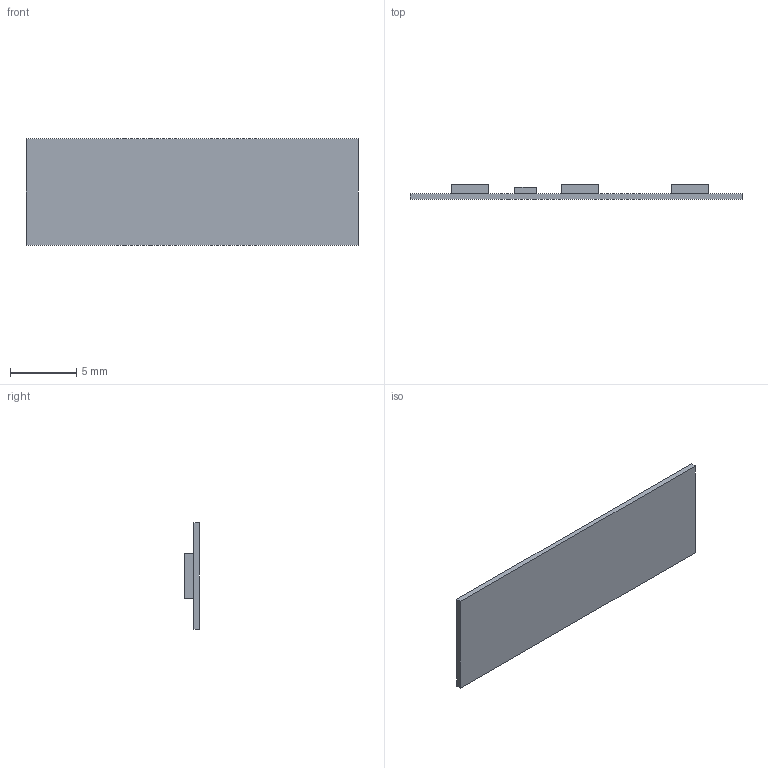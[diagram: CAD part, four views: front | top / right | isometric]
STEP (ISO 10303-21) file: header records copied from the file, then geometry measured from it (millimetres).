
FILE_DESCRIPTION (( 'STEP AP214' ), '1' );
FILE_NAME ('STRONG LED pásek 9,6W-m 12V_250029 a 231392 a 231387_3D.STEP', '2020-06-09T08:38:07', ( '' ), ( '' ), 'SwSTEP 2.0', 'SolidWorks 2019', '' );
FILE_SCHEMA (( 'AUTOMOTIVE_DESIGN' ));
Length unit declared in the file: millimetre
Products named in the file (1): STRONG LED pásek 9,6W-m 12V_250029 a 231392 a 231387_3D
Bounding box: 25 x 1.1 x 8 mm (x, y, z)
Volume: 102.6 mm3; surface area: 457.2 mm2
Topology: 1 solids, 1 shells, 26 faces, 60 edges, 40 vertices
Faces by surface type: plane 26
Entity records: 758 total; most frequent: CARTESIAN_POINT 127, ORIENTED_EDGE 120, DIRECTION 114, LINE 60, EDGE_CURVE 60, VECTOR 60, VERTEX_POINT 40, EDGE_LOOP 30
